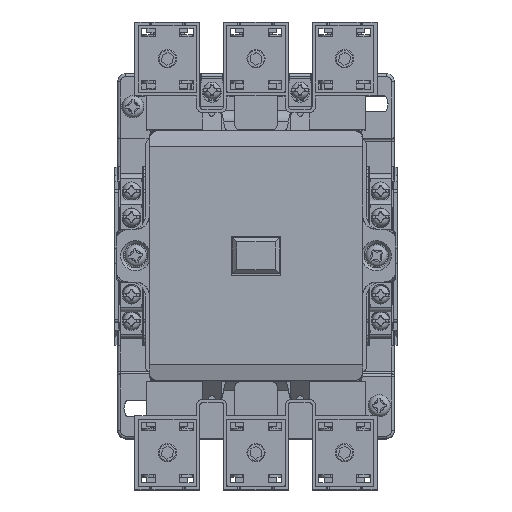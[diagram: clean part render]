
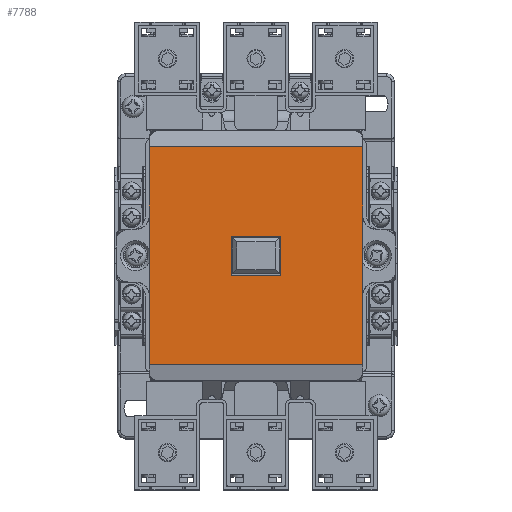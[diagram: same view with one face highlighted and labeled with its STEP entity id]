
A CAD part, top view. The second image highlights one B-rep face of the part: STEP entity #7788.
In plain terms, the highlighted planar face has unit normal (0, 0, 1).
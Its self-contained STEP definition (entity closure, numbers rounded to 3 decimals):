
#208 = VECTOR ( 'NONE', #51179, 1000. ) ;
#935 = CARTESIAN_POINT ( 'NONE',  ( 9., 7., 44. ) ) ;
#2403 = VERTEX_POINT ( 'NONE', #3036 ) ;
#3036 = CARTESIAN_POINT ( 'NONE',  ( 38.5, 39.35, 44. ) ) ;
#3144 = CARTESIAN_POINT ( 'NONE',  ( -9., 7., 44. ) ) ;
#3164 = ORIENTED_EDGE ( 'NONE', *, *, #13908, .F. ) ;
#4317 = CARTESIAN_POINT ( 'NONE',  ( 35.3, 41.95, 44. ) ) ;
#4376 = EDGE_CURVE ( 'NONE', #53488, #51048, #25614, .T. ) ;
#5313 = EDGE_CURVE ( 'NONE', #14529, #2403, #31069, .T. ) ;
#6022 = DIRECTION ( 'NONE',  ( -1., 0., 0. ) ) ;
#7770 = FACE_BOUND ( 'NONE', #43699, .T. ) ;
#7788 = ADVANCED_FACE ( 'NONE', ( #7770, #34975 ), #24630, .T. ) ;
#7959 = CARTESIAN_POINT ( 'NONE',  ( -9., -7., 44. ) ) ;
#9272 = CARTESIAN_POINT ( 'NONE',  ( -38.506, 39.35, 44. ) ) ;
#9455 = DIRECTION ( 'NONE',  ( 1., 0., 0. ) ) ;
#10027 = EDGE_CURVE ( 'NONE', #51048, #2403, #15517, .T. ) ;
#10596 = CARTESIAN_POINT ( 'NONE',  ( 38.5, -39.35, 44. ) ) ;
#13718 = VECTOR ( 'NONE', #6022, 1000. ) ;
#13908 = EDGE_CURVE ( 'NONE', #35072, #44401, #27323, .T. ) ;
#14400 = DIRECTION ( 'NONE',  ( 1., 0., 0. ) ) ;
#14529 = VERTEX_POINT ( 'NONE', #19048 ) ;
#15517 = LINE ( 'NONE', #49779, #56245 ) ;
#16177 = ORIENTED_EDGE ( 'NONE', *, *, #4376, .T. ) ;
#16669 = CARTESIAN_POINT ( 'NONE',  ( 9., -7., 44. ) ) ;
#18886 = CARTESIAN_POINT ( 'NONE',  ( 9., -7., 44. ) ) ;
#19048 = CARTESIAN_POINT ( 'NONE',  ( -38.5, 39.35, 44. ) ) ;
#21373 = EDGE_CURVE ( 'NONE', #64799, #39174, #24585, .T. ) ;
#24182 = VECTOR ( 'NONE', #29148, 1000. ) ;
#24585 = LINE ( 'NONE', #30890, #51718 ) ;
#24630 = PLANE ( 'NONE',  #44418 ) ;
#25614 = LINE ( 'NONE', #47474, #37609 ) ;
#27323 = LINE ( 'NONE', #46055, #208 ) ;
#28201 = EDGE_CURVE ( 'NONE', #14529, #53488, #31932, .T. ) ;
#28582 = ORIENTED_EDGE ( 'NONE', *, *, #5313, .F. ) ;
#29148 = DIRECTION ( 'NONE',  ( 1., 0., 0. ) ) ;
#29201 = ORIENTED_EDGE ( 'NONE', *, *, #10027, .T. ) ;
#30890 = CARTESIAN_POINT ( 'NONE',  ( 9., -7., 44. ) ) ;
#31069 = LINE ( 'NONE', #9272, #43054 ) ;
#31932 = LINE ( 'NONE', #38289, #57430 ) ;
#32537 = EDGE_CURVE ( 'NONE', #44401, #64799, #64893, .T. ) ;
#32941 = ORIENTED_EDGE ( 'NONE', *, *, #32537, .F. ) ;
#34975 = FACE_OUTER_BOUND ( 'NONE', #61596, .T. ) ;
#35072 = VERTEX_POINT ( 'NONE', #3144 ) ;
#35204 = CARTESIAN_POINT ( 'NONE',  ( 9., 7., 44. ) ) ;
#35982 = ORIENTED_EDGE ( 'NONE', *, *, #28201, .T. ) ;
#37609 = VECTOR ( 'NONE', #47682, 1000. ) ;
#38289 = CARTESIAN_POINT ( 'NONE',  ( -38.5, -41.95, 44. ) ) ;
#39174 = VERTEX_POINT ( 'NONE', #35204 ) ;
#40039 = DIRECTION ( 'NONE',  ( 0., 0., 1. ) ) ;
#40187 = CARTESIAN_POINT ( 'NONE',  ( -38.5, -39.35, 44. ) ) ;
#43054 = VECTOR ( 'NONE', #14400, 1000. ) ;
#43423 = DIRECTION ( 'NONE',  ( 0., -1., 0. ) ) ;
#43699 = EDGE_LOOP ( 'NONE', ( #3164, #44377, #55846, #32941 ) ) ;
#44377 = ORIENTED_EDGE ( 'NONE', *, *, #56203, .F. ) ;
#44401 = VERTEX_POINT ( 'NONE', #7959 ) ;
#44418 = AXIS2_PLACEMENT_3D ( 'NONE', #4317, #40039, #9455 ) ;
#46055 = CARTESIAN_POINT ( 'NONE',  ( -9., -7., 44. ) ) ;
#47474 = CARTESIAN_POINT ( 'NONE',  ( -38.506, -39.35, 44. ) ) ;
#47682 = DIRECTION ( 'NONE',  ( 1., 0., 0. ) ) ;
#49656 = LINE ( 'NONE', #935, #13718 ) ;
#49779 = CARTESIAN_POINT ( 'NONE',  ( 38.5, -41.95, 44. ) ) ;
#51048 = VERTEX_POINT ( 'NONE', #10596 ) ;
#51179 = DIRECTION ( 'NONE',  ( 0., -1., 0. ) ) ;
#51211 = DIRECTION ( 'NONE',  ( 0., 1., 0. ) ) ;
#51718 = VECTOR ( 'NONE', #51211, 1000. ) ;
#53488 = VERTEX_POINT ( 'NONE', #40187 ) ;
#55846 = ORIENTED_EDGE ( 'NONE', *, *, #21373, .F. ) ;
#56203 = EDGE_CURVE ( 'NONE', #39174, #35072, #49656, .T. ) ;
#56245 = VECTOR ( 'NONE', #64717, 1000. ) ;
#57430 = VECTOR ( 'NONE', #43423, 1000. ) ;
#61596 = EDGE_LOOP ( 'NONE', ( #16177, #29201, #28582, #35982 ) ) ;
#64717 = DIRECTION ( 'NONE',  ( 0., 1., 0. ) ) ;
#64799 = VERTEX_POINT ( 'NONE', #16669 ) ;
#64893 = LINE ( 'NONE', #18886, #24182 ) ;
